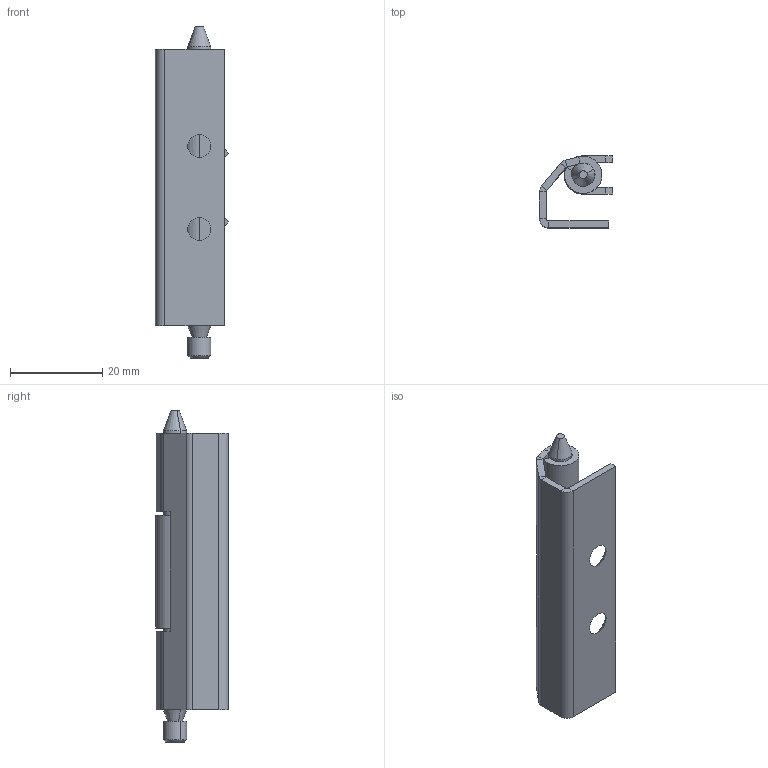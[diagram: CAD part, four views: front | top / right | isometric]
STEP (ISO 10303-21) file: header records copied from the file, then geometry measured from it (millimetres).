
FILE_DESCRIPTION (( 'STEP AP214' ), '1' );
FILE_NAME ('3.ST32.003.STEP', '2010-04-20T19:52:10', ( 'Techniczny' ), ( 'RST ROZTOCZE' ), 'SwSTEP 2.0', 'SolidWorks 2010', '' );
FILE_SCHEMA (( 'AUTOMOTIVE_DESIGN' ));
Length unit declared in the file: millimetre
Products named in the file (4): 3.ST32.003.03; 3.ST32.003.01; 3.ST32.003; 3.ST32.003.02
Assembly tree (3 placements, depth 2):
  3.ST32.003
    3.ST32.003.01
    3.ST32.003.02
    3.ST32.003.03
Bounding box: 15.85 x 15.65 x 72 mm (x, y, z)
Volume: 5515.7 mm3; surface area: 7489.3 mm2
Topology: 3 solids, 3 shells, 471 faces, 1120 edges, 726 vertices
Faces by surface type: plane 361, cylinder 100, cone 10
Entity records: 13742 total; most frequent: DIRECTION 2436, CARTESIAN_POINT 2323, ORIENTED_EDGE 2240, EDGE_CURVE 1120, AXIS2_PLACEMENT_3D 839, VECTOR 758, LINE 758, VERTEX_POINT 726
